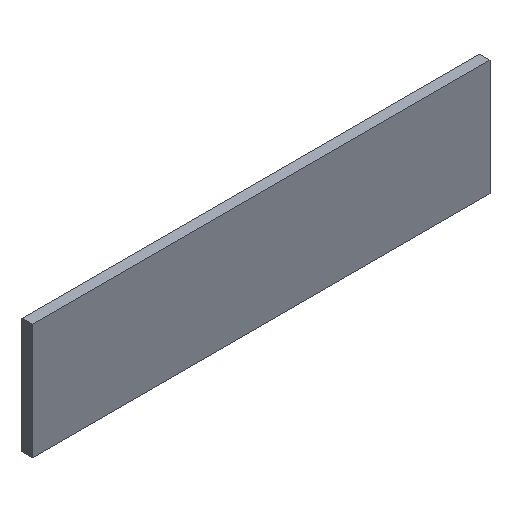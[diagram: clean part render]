
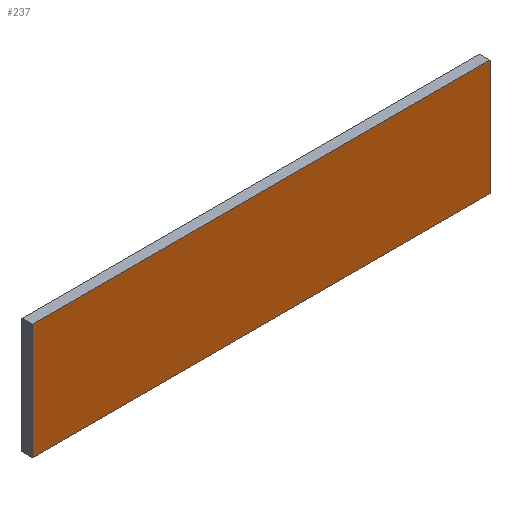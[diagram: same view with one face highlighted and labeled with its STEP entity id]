
A CAD part, isometric view. The second image highlights one B-rep face of the part: STEP entity #237.
In plain terms, the highlighted planar face has unit normal (0, -1, 0).
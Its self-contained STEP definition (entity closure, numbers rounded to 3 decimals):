
#21 = EDGE_CURVE('',#22,#24,#26,.T.);
#22 = VERTEX_POINT('',#23);
#23 = CARTESIAN_POINT('',(-30.7,26.98,-10.1));
#24 = VERTEX_POINT('',#25);
#25 = CARTESIAN_POINT('',(-30.7,26.98,-7.9));
#26 = SURFACE_CURVE('',#27,(#31,#43),.PCURVE_S1.);
#27 = LINE('',#28,#29);
#28 = CARTESIAN_POINT('',(-30.7,26.98,-10.1));
#29 = VECTOR('',#30,1.);
#30 = DIRECTION('',(0.,0.,1.));
#31 = PCURVE('',#32,#37);
#32 = PLANE('',#33);
#33 = AXIS2_PLACEMENT_3D('',#34,#35,#36);
#34 = CARTESIAN_POINT('',(-30.7,26.98,-10.1));
#35 = DIRECTION('',(1.,0.,-0.));
#36 = DIRECTION('',(0.,0.,1.));
#37 = DEFINITIONAL_REPRESENTATION('',(#38),#42);
#38 = LINE('',#39,#40);
#39 = CARTESIAN_POINT('',(0.,0.));
#40 = VECTOR('',#41,1.);
#41 = DIRECTION('',(1.,0.));
#42 = ( GEOMETRIC_REPRESENTATION_CONTEXT(2) 
PARAMETRIC_REPRESENTATION_CONTEXT() REPRESENTATION_CONTEXT('2D SPACE',''
  ) );
#43 = PCURVE('',#44,#49);
#44 = PLANE('',#45);
#45 = AXIS2_PLACEMENT_3D('',#46,#47,#48);
#46 = CARTESIAN_POINT('',(-30.7,26.98,-10.1));
#47 = DIRECTION('',(-0.,1.,0.));
#48 = DIRECTION('',(0.,0.,1.));
#49 = DEFINITIONAL_REPRESENTATION('',(#50),#54);
#50 = LINE('',#51,#52);
#51 = CARTESIAN_POINT('',(0.,0.));
#52 = VECTOR('',#53,1.);
#53 = DIRECTION('',(1.,0.));
#54 = ( GEOMETRIC_REPRESENTATION_CONTEXT(2) 
PARAMETRIC_REPRESENTATION_CONTEXT() REPRESENTATION_CONTEXT('2D SPACE',''
  ) );
#72 = PLANE('',#73);
#73 = AXIS2_PLACEMENT_3D('',#74,#75,#76);
#74 = CARTESIAN_POINT('',(-30.7,26.98,-10.1));
#75 = DIRECTION('',(0.,0.,1.));
#76 = DIRECTION('',(1.,0.,-0.));
#126 = PLANE('',#127);
#127 = AXIS2_PLACEMENT_3D('',#128,#129,#130);
#128 = CARTESIAN_POINT('',(-30.7,26.98,-7.9));
#129 = DIRECTION('',(0.,0.,1.));
#130 = DIRECTION('',(1.,0.,-0.));
#141 = EDGE_CURVE('',#142,#144,#146,.T.);
#142 = VERTEX_POINT('',#143);
#143 = CARTESIAN_POINT('',(-22.,26.98,-10.1));
#144 = VERTEX_POINT('',#145);
#145 = CARTESIAN_POINT('',(-22.,26.98,-7.9));
#146 = SURFACE_CURVE('',#147,(#151,#163),.PCURVE_S1.);
#147 = LINE('',#148,#149);
#148 = CARTESIAN_POINT('',(-22.,26.98,-10.1));
#149 = VECTOR('',#150,1.);
#150 = DIRECTION('',(0.,0.,1.));
#151 = PCURVE('',#152,#157);
#152 = PLANE('',#153);
#153 = AXIS2_PLACEMENT_3D('',#154,#155,#156);
#154 = CARTESIAN_POINT('',(-22.,26.98,-10.1));
#155 = DIRECTION('',(1.,0.,-0.));
#156 = DIRECTION('',(0.,0.,1.));
#157 = DEFINITIONAL_REPRESENTATION('',(#158),#162);
#158 = LINE('',#159,#160);
#159 = CARTESIAN_POINT('',(0.,0.));
#160 = VECTOR('',#161,1.);
#161 = DIRECTION('',(1.,0.));
#162 = ( GEOMETRIC_REPRESENTATION_CONTEXT(2) 
PARAMETRIC_REPRESENTATION_CONTEXT() REPRESENTATION_CONTEXT('2D SPACE',''
  ) );
#163 = PCURVE('',#44,#164);
#164 = DEFINITIONAL_REPRESENTATION('',(#165),#169);
#165 = LINE('',#166,#167);
#166 = CARTESIAN_POINT('',(0.,8.7));
#167 = VECTOR('',#168,1.);
#168 = DIRECTION('',(1.,0.));
#169 = ( GEOMETRIC_REPRESENTATION_CONTEXT(2) 
PARAMETRIC_REPRESENTATION_CONTEXT() REPRESENTATION_CONTEXT('2D SPACE',''
  ) );
#237 = ADVANCED_FACE('',(#238),#44,.F.);
#238 = FACE_BOUND('',#239,.F.);
#239 = EDGE_LOOP('',(#240,#261,#262,#283));
#240 = ORIENTED_EDGE('',*,*,#241,.F.);
#241 = EDGE_CURVE('',#22,#142,#242,.T.);
#242 = SURFACE_CURVE('',#243,(#247,#254),.PCURVE_S1.);
#243 = LINE('',#244,#245);
#244 = CARTESIAN_POINT('',(-30.7,26.98,-10.1));
#245 = VECTOR('',#246,1.);
#246 = DIRECTION('',(1.,0.,-0.));
#247 = PCURVE('',#44,#248);
#248 = DEFINITIONAL_REPRESENTATION('',(#249),#253);
#249 = LINE('',#250,#251);
#250 = CARTESIAN_POINT('',(0.,0.));
#251 = VECTOR('',#252,1.);
#252 = DIRECTION('',(0.,1.));
#253 = ( GEOMETRIC_REPRESENTATION_CONTEXT(2) 
PARAMETRIC_REPRESENTATION_CONTEXT() REPRESENTATION_CONTEXT('2D SPACE',''
  ) );
#254 = PCURVE('',#72,#255);
#255 = DEFINITIONAL_REPRESENTATION('',(#256),#260);
#256 = LINE('',#257,#258);
#257 = CARTESIAN_POINT('',(0.,0.));
#258 = VECTOR('',#259,1.);
#259 = DIRECTION('',(1.,0.));
#260 = ( GEOMETRIC_REPRESENTATION_CONTEXT(2) 
PARAMETRIC_REPRESENTATION_CONTEXT() REPRESENTATION_CONTEXT('2D SPACE',''
  ) );
#261 = ORIENTED_EDGE('',*,*,#21,.T.);
#262 = ORIENTED_EDGE('',*,*,#263,.T.);
#263 = EDGE_CURVE('',#24,#144,#264,.T.);
#264 = SURFACE_CURVE('',#265,(#269,#276),.PCURVE_S1.);
#265 = LINE('',#266,#267);
#266 = CARTESIAN_POINT('',(-30.7,26.98,-7.9));
#267 = VECTOR('',#268,1.);
#268 = DIRECTION('',(1.,0.,-0.));
#269 = PCURVE('',#44,#270);
#270 = DEFINITIONAL_REPRESENTATION('',(#271),#275);
#271 = LINE('',#272,#273);
#272 = CARTESIAN_POINT('',(2.2,0.));
#273 = VECTOR('',#274,1.);
#274 = DIRECTION('',(0.,1.));
#275 = ( GEOMETRIC_REPRESENTATION_CONTEXT(2) 
PARAMETRIC_REPRESENTATION_CONTEXT() REPRESENTATION_CONTEXT('2D SPACE',''
  ) );
#276 = PCURVE('',#126,#277);
#277 = DEFINITIONAL_REPRESENTATION('',(#278),#282);
#278 = LINE('',#279,#280);
#279 = CARTESIAN_POINT('',(0.,0.));
#280 = VECTOR('',#281,1.);
#281 = DIRECTION('',(1.,0.));
#282 = ( GEOMETRIC_REPRESENTATION_CONTEXT(2) 
PARAMETRIC_REPRESENTATION_CONTEXT() REPRESENTATION_CONTEXT('2D SPACE',''
  ) );
#283 = ORIENTED_EDGE('',*,*,#141,.F.);
